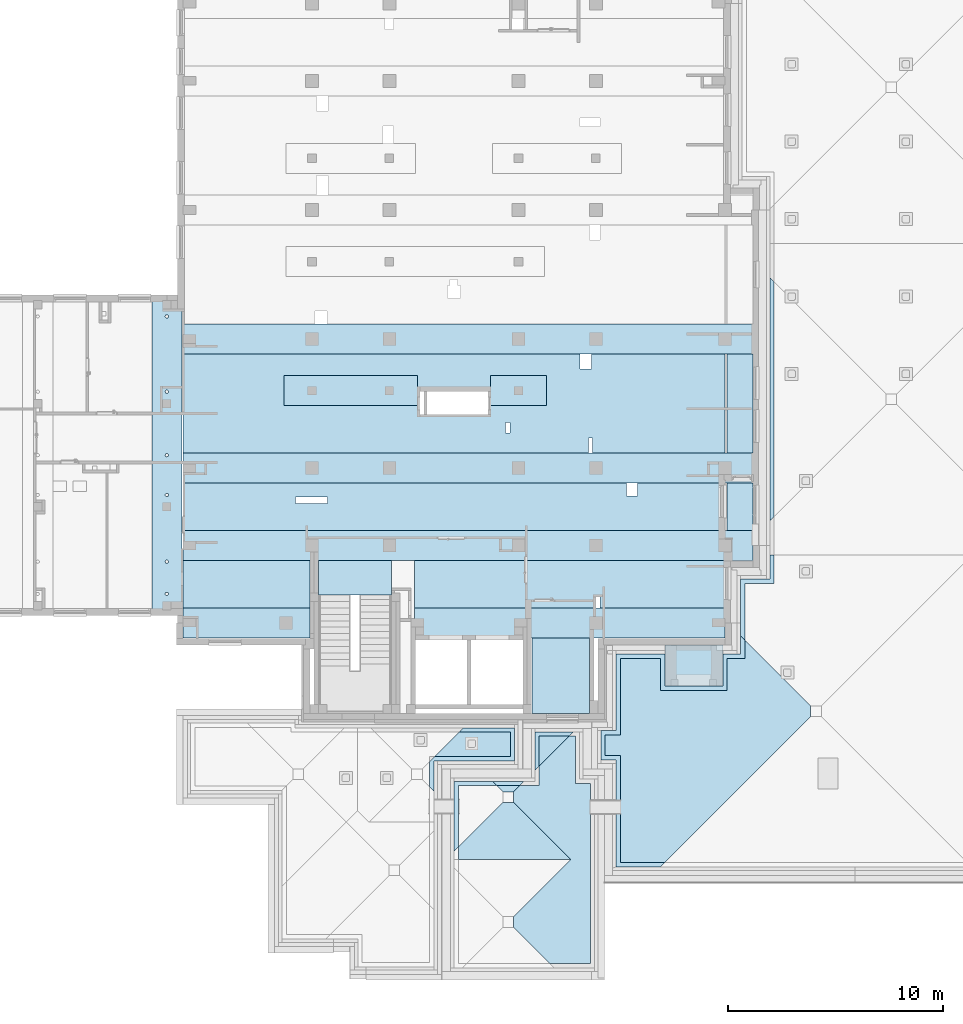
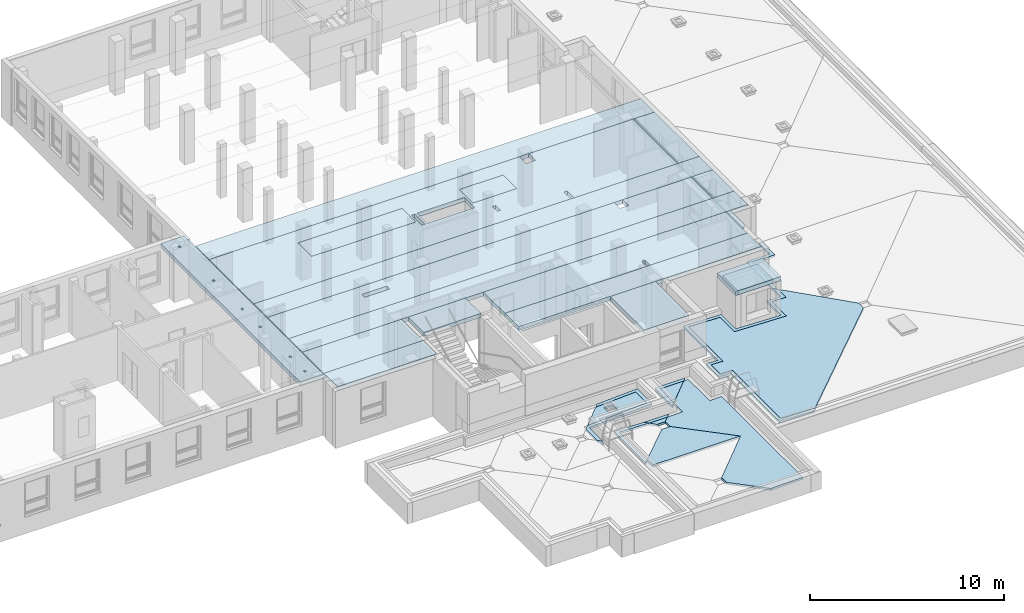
# One storey, part 5 of 50: 31 slabs, 14 openings, 6 elements without a shape of their own.
"""IFC4 building model written with IfcOpenShell, lengths in metres."""

from ifc_helpers import new_model, entity, si_unit, converted_unit, derived_unit, frame, frame_2d, origin, origin_with_axes, place, context, subcontext, project, spatial, polyline, rectangle, circle, outline, extrude, material, layer, layer_set, layer_usage, element, aggregate, save


model = new_model("IFC4")

# Units and contexts
model_context = context("Model", 3, precision=1e-05, world=origin())
body_context = subcontext(model_context, "Body", "Model", "MODEL_VIEW")
ifc_project = project(units=[si_unit("LENGTHUNIT", "METRE"), si_unit("AREAUNIT", "SQUARE_METRE"), si_unit("VOLUMEUNIT", "CUBIC_METRE"), si_unit("MASSUNIT", "GRAM", prefix="KILO"), converted_unit("PLANEANGLEUNIT", "DEGREE", entity("IfcPlaneAngleMeasure", 0.0174532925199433), si_unit("PLANEANGLEUNIT", "RADIAN"), dimensions=[0, 0, 0, 0, 0, 0, 0]), derived_unit("THERMALTRANSMITTANCEUNIT", [(si_unit("POWERUNIT", "WATT"), 1), (si_unit("THERMODYNAMICTEMPERATUREUNIT", "KELVIN"), -1), (si_unit("LENGTHUNIT", "METRE"), -2)]), derived_unit("VOLUMETRICFLOWRATEUNIT", [(si_unit("LENGTHUNIT", "METRE"), 3), (converted_unit("TIMEUNIT", "hour", entity("IfcTimeMeasure", 3600.0), si_unit("TIMEUNIT", "SECOND"), dimensions=[0, 0, 1, 0, 0, 0, 0]), -1), (si_unit("LENGTHUNIT", "METRE"), -1)])], contexts=[model_context])

# Site, building, storey
site_placement = place(None, origin())
site = spatial("IfcSite", under=ifc_project, at=site_placement, Name="3. ASŘ", CompositionType="ELEMENT")
building_placement = place(site_placement, origin())
building = spatial("IfcBuilding", under=site, at=building_placement, Name="Pavilon C", CompositionType="ELEMENT")
storey_placement = place(building_placement, frame((0.0, 0.0, 3.6)))
storey = spatial("IfcBuildingStorey", under=building, at=storey_placement, Name="Půdorys 2.NP", CompositionType="ELEMENT", Elevation=3.6)

# Slab, opening
ifc_material_1 = material(Name="PZD")
slab_1_placement = place(storey_placement, frame((35.52, 0.699999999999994, 3.25)))
slab_1 = element("IfcSlab", 1, at=slab_1_placement, inside=storey, material=ifc_material_1, PredefinedType="FLOOR", context=body_context, shape_type="SweptSolid", body=[
    extrude(rectangle(XDim=14.43, YDim=2.2, at=frame_2d((7.215, 1.1), x_axis=(1.0, -7.87850573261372e-18))), frame((0.0, 1.13686837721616e-16, 0.0), z_axis=(0.0, 0.0, 1.0), x_axis=(1.0, 0.0, 0.0)), (0.0, 0.0, 1.0), 0.25),
])
opening_1_placement = place(slab_1_placement, frame((8.43, -1.70530256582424e-15, 0.0)))
element("IfcOpeningElement", 2, at=opening_1_placement, cuts=slab_1, Name="Prostup deskou", ObjectType="Opening", context=body_context, shape_type="SweptSolid", body=[
    extrude(rectangle(XDim=0.5, YDim=0.2, at=frame_2d((7.27595761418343e-15, 0.0), x_axis=(0.0, -1.0))), frame((0.0999999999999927, 0.25, 0.0), z_axis=(0.0, 0.0, 1.0), x_axis=(1.0, 0.0, 0.0)), (0.0, 0.0, 1.0), 0.25),
])

# Slabs
ifc_material_2 = material(Name="DZH")
slab_2_placement = place(storey_placement, frame((31.05, 1.3001, 3.25)))
element("IfcSlab", 3, at=slab_2_placement, inside=storey, material=ifc_material_2, PredefinedType="FLOOR", context=body_context, shape_type="SweptSolid", body=[
    extrude(rectangle(XDim=1.5999, YDim=3.39999999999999, at=frame_2d((-1.69999999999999, 0.799949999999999), x_axis=(0.0, 1.0))), frame((3.39999999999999, 0.0, 0.0), z_axis=(0.0, 0.0, 1.0), x_axis=(1.0, 0.0, 0.0)), (0.0, 0.0, 1.0), 0.25),
])
ifc_material_3 = material(Name="PZD")
slab_3_placement = place(storey_placement, frame((24.75, 0.699999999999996, 3.25)))
element("IfcSlab", 4, at=slab_3_placement, inside=storey, material=ifc_material_3, PredefinedType="FLOOR", context=body_context, shape_type="SweptSolid", body=[
    extrude(rectangle(XDim=2.2, YDim=5.9, at=frame_2d((2.95, -1.1), x_axis=(0.0, -1.0))), frame((0.0, 2.2, 0.0), z_axis=(0.0, 0.0, 1.0), x_axis=(1.0, 0.0, 0.0)), (0.0, 0.0, 1.0), 0.25),
])
ifc_material_4 = material(Name="RZT")
slab_4_placement = place(storey_placement, frame((24.75, -0.700000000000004, 3.25)))
element("IfcSlab", 5, at=slab_4_placement, inside=storey, material=ifc_material_4, PredefinedType="FLOOR", context=body_context, shape_type="SweptSolid", body=[
    extrude(rectangle(XDim=1.4, YDim=5.9, at=frame_2d((-2.95, 0.700000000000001), x_axis=(0.0, 1.0))), frame((5.9, 0.0, 0.0), z_axis=(0.0, 0.0, 1.0), x_axis=(1.0, 0.0, 0.0)), (0.0, 0.0, 1.0), 0.25),
])
ifc_material_5 = material(Name="PZD")
slab_5_placement = place(storey_placement, frame((50.05, 7.89999999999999, 3.25)))
element("IfcSlab", 6, at=slab_5_placement, inside=storey, material=ifc_material_5, PredefinedType="FLOOR", context=body_context, shape_type="SweptSolid", body=[
    extrude(rectangle(XDim=1.2, YDim=4.6, at=frame_2d((0.6, 2.3), x_axis=(1.0, 0.0))), origin_with_axes(), (0.0, 0.0, 1.0), 0.25),
])
ifc_material_6 = material(Name="PZD")
slab_6_placement = place(storey_placement, frame((50.05, 4.29999999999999, 3.25)))
element("IfcSlab", 7, at=slab_6_placement, inside=storey, material=ifc_material_6, PredefinedType="FLOOR", context=body_context, shape_type="SweptSolid", body=[
    extrude(rectangle(XDim=1.2, YDim=2.2, at=frame_2d((0.6, 1.1), x_axis=(1.0, 0.0))), origin_with_axes(), (0.0, 0.0, 1.0), 0.25),
])
ifc_material_7 = material(Name="RZT")
slab_7_placement = place(storey_placement, frame((24.75, 2.89999999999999, 3.25)))
element("IfcSlab", 8, at=slab_7_placement, inside=storey, material=ifc_material_7, PredefinedType="FLOOR", context=body_context, shape_type="SweptSolid", body=[
    extrude(rectangle(XDim=1.4, YDim=26.5, at=frame_2d((-13.25, 0.700000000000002), x_axis=(0.0, 1.0))), frame((26.5, 0.0, 0.0), z_axis=(0.0, 0.0, 1.0), x_axis=(1.0, 0.0, 0.0)), (0.0, 0.0, 1.0), 0.25),
])
ifc_material_8 = material(Name="RZT")
slab_8_placement = place(storey_placement, frame((24.75, 6.49999999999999, 3.25)))
element("IfcSlab", 9, at=slab_8_placement, inside=storey, material=ifc_material_8, PredefinedType="FLOOR", context=body_context, shape_type="SweptSolid", body=[
    extrude(rectangle(XDim=1.4, YDim=26.5, at=frame_2d((-13.25, 0.700000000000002), x_axis=(0.0, 1.0))), frame((26.5, 0.0, 0.0), z_axis=(0.0, 0.0, 1.0), x_axis=(1.0, 0.0, 0.0)), (0.0, 0.0, 1.0), 0.25),
])
ifc_material_9 = material(Name="RZT")
slab_9_placement = place(storey_placement, frame((24.75, 12.5, 3.25)))
element("IfcSlab", 10, at=slab_9_placement, inside=storey, material=ifc_material_9, PredefinedType="FLOOR", context=body_context, shape_type="SweptSolid", body=[
    extrude(rectangle(XDim=1.4, YDim=26.5, at=frame_2d((-13.25, 0.700000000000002), x_axis=(0.0, 1.0))), frame((26.5, 0.0, 0.0), z_axis=(0.0, 0.0, 1.0), x_axis=(1.0, 0.0, 0.0)), (0.0, 0.0, 1.0), 0.25),
])
ifc_material_10 = material(Name="PZD")
slab_10_placement = place(storey_placement, frame((40.98, -4.2, 3.25)))
element("IfcSlab", 11, at=slab_10_placement, inside=storey, material=ifc_material_10, PredefinedType="FLOOR", context=body_context, shape_type="SweptSolid", body=[
    extrude(rectangle(XDim=3.5, YDim=2.67, at=frame_2d((1.335, -1.75), x_axis=(-2.07884503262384e-15, -1.0))), frame((7.27595761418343e-15, 3.5, 0.0), z_axis=(0.0, 0.0, 1.0), x_axis=(1.0, 0.0, 0.0)), (0.0, 0.0, 1.0), 0.25),
])
ifc_material_11 = material(Name="RZT")
slab_11_placement = place(storey_placement, frame((35.52, -0.700000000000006, 3.25)))
element("IfcSlab", 12, at=slab_11_placement, inside=storey, material=ifc_material_11, PredefinedType="FLOOR", context=body_context, shape_type="SweptSolid", body=[
    extrude(rectangle(XDim=1.4, YDim=14.43, at=frame_2d((-7.215, 0.700000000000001), x_axis=(0.0, 1.0))), frame((14.43, 0.0, 0.0), z_axis=(0.0, 0.0, 1.0), x_axis=(1.0, 0.0, 0.0)), (0.0, 0.0, 1.0), 0.25),
])

# Slab, openings
ifc_material_12 = material(Name="RZT")
slab_12_placement = place(storey_placement, frame((23.3, 0.600000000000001, 3.25)))
slab_12 = element("IfcSlab", 13, at=slab_12_placement, inside=storey, material=ifc_material_12, PredefinedType="FLOOR", context=body_context, shape_type="SweptSolid", body=[
    extrude(rectangle(XDim=1.4, YDim=14.4, at=frame_2d((0.700000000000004, 7.2), x_axis=(1.0, 0.0))), origin_with_axes(), (0.0, 0.0, 1.0), 0.25),
])
opening_2_placement = place(slab_12_placement, frame((0.62507717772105, 0.675077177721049, 0.0)))
element("IfcOpeningElement", 14, at=opening_2_placement, cuts=slab_12, Name="Prostup deskou", ObjectType="Opening", context=body_context, shape_type="SweptSolid", body=[
    extrude(circle(Radius=0.075, at=frame_2d((3.63797880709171e-15, -4.54747350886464e-16), x_axis=(1.0, 0.0))), frame((0.0749228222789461, 0.0749228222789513, 0.0), z_axis=(0.0, 0.0, 1.0), x_axis=(1.0, 0.0, 0.0)), (0.0, 0.0, 1.0), 0.25),
])
opening_3_placement = place(slab_12_placement, frame((0.62507717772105, 2.17507717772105, 0.0)))
element("IfcOpeningElement", 15, at=opening_3_placement, cuts=slab_12, Name="Prostup deskou", ObjectType="Opening", context=body_context, shape_type="SweptSolid", body=[
    extrude(circle(Radius=0.0749999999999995, at=frame_2d((3.63797880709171e-15, 0.0), x_axis=(1.0, 0.0))), frame((0.0749228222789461, 0.0749228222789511, 0.0), z_axis=(0.0, 0.0, 1.0), x_axis=(1.0, 0.0, 0.0)), (0.0, 0.0, 1.0), 0.25),
])
opening_4_placement = place(slab_12_placement, frame((0.625077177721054, 10.0750771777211, 0.0)))
element("IfcOpeningElement", 16, at=opening_4_placement, cuts=slab_12, Name="Prostup deskou", ObjectType="Opening", context=body_context, shape_type="SweptSolid", body=[
    extrude(circle(Radius=0.0750000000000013, at=frame_2d((7.27595761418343e-15, -1.81898940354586e-15), x_axis=(1.0, 0.0))), frame((0.0749228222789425, 0.0749228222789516, 0.0), z_axis=(0.0, 0.0, 1.0), x_axis=(1.0, 0.0, 0.0)), (0.0, 0.0, 1.0), 0.25),
])
opening_5_placement = place(slab_12_placement, frame((0.625077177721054, 13.575077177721, 0.0)))
element("IfcOpeningElement", 17, at=opening_5_placement, cuts=slab_12, Name="Prostup deskou", ObjectType="Opening", context=body_context, shape_type="SweptSolid", body=[
    extrude(circle(Radius=0.0750000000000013, at=frame_2d((-3.63797880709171e-15, 5.45696821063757e-15), x_axis=(1.0, 0.0))), frame((0.0749228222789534, 0.0749228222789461, 0.0), z_axis=(0.0, 0.0, 1.0), x_axis=(1.0, 0.0, 0.0)), (0.0, 0.0, 1.0), 0.25),
])
opening_6_placement = place(slab_12_placement, frame((0.62507717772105, 5.27507717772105, 0.0)))
element("IfcOpeningElement", 18, at=opening_6_placement, cuts=slab_12, Name="Prostup deskou", ObjectType="Opening", context=body_context, shape_type="SweptSolid", body=[
    extrude(circle(Radius=0.0750000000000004, at=frame_2d((3.63797880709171e-15, 5.45696821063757e-15), x_axis=(1.0, 0.0))), frame((0.0749228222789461, 0.0749228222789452, 0.0), z_axis=(0.0, 0.0, 1.0), x_axis=(1.0, 0.0, 0.0)), (0.0, 0.0, 1.0), 0.25),
])
opening_7_placement = place(slab_12_placement, frame((0.62507717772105, 7.12507717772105, 0.0)))
element("IfcOpeningElement", 19, at=opening_7_placement, cuts=slab_12, Name="Prostup deskou", ObjectType="Opening", context=body_context, shape_type="SweptSolid", body=[
    extrude(circle(Radius=0.0750000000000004, at=frame_2d((3.63797880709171e-15, 9.09494701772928e-16), x_axis=(1.0, 0.0))), frame((0.0749228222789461, 0.0749228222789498, 0.0), z_axis=(0.0, 0.0, 1.0), x_axis=(1.0, 0.0, 0.0)), (0.0, 0.0, 1.0), 0.25),
])

# Slabs
ifc_material_13 = material(Name="RZT")
slab_13_placement = place(storey_placement, frame((29.45, 10.1, 3.25)))
element("IfcSlab", 20, at=slab_13_placement, inside=storey, material=ifc_material_13, PredefinedType="FLOOR", context=body_context, shape_type="SweptSolid", body=[
    extrude(rectangle(XDim=1.4, YDim=6.2, at=frame_2d((-3.1, 0.7), x_axis=(0.0, 1.0))), frame((6.2, 0.0, 0.0), z_axis=(0.0, 0.0, 1.0), x_axis=(1.0, 0.0, 0.0)), (0.0, 0.0, 1.0), 0.25),
])
ifc_material_14 = material(Name="RZT")
slab_14_placement = place(storey_placement, frame((39.05, 10.1, 3.25)))
element("IfcSlab", 21, at=slab_14_placement, inside=storey, material=ifc_material_14, PredefinedType="FLOOR", context=body_context, shape_type="SweptSolid", body=[
    extrude(rectangle(XDim=1.4, YDim=2.6, at=frame_2d((-1.3, 0.7), x_axis=(0.0, 1.0))), frame((2.6, 0.0, 0.0), z_axis=(0.0, 0.0, 1.0), x_axis=(1.0, 0.0, 0.0)), (0.0, 0.0, 1.0), 0.25),
])

# Slab, openings
ifc_material_15 = material(Name="PZD")
slab_15_placement = place(storey_placement, frame((24.75, 7.9, 3.25)))
slab_15 = element("IfcSlab", 22, at=slab_15_placement, inside=storey, material=ifc_material_15, PredefinedType="FLOOR", context=body_context, shape_type="SweptSolid", body=[
    extrude(outline(polyline([(25.2, 0.0), (25.2, 4.6), (0.0, 4.6), (0.0, 0.0), (25.2, 0.0)]), holes=[polyline([(10.9, 2.19999999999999), (4.7, 2.19999999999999), (4.7, 3.59999999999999), (10.9, 3.59999999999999), (10.9, 2.19999999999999)]), polyline([(14.3, 2.2), (14.3, 3.59999999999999), (16.9, 3.59999999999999), (16.9, 2.19999999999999), (14.3, 2.2)])]), origin_with_axes(), (0.0, 0.0, 1.0), 0.25),
])
opening_8_placement = place(slab_15_placement, frame((15.0, 0.924999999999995, 0.0)))
element("IfcOpeningElement", 23, at=opening_8_placement, cuts=slab_15, Name="Prostup deskou", ObjectType="Opening", context=body_context, shape_type="SweptSolid", body=[
    extrude(rectangle(XDim=0.5, YDim=0.2, at=frame_2d((7.27595761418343e-15, 0.0), x_axis=(0.0, -1.0))), frame((0.0999999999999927, 0.25, 0.0), z_axis=(0.0, 0.0, 1.0), x_axis=(1.0, 0.0, 0.0)), (0.0, 0.0, 1.0), 0.25),
])
opening_9_placement = place(slab_15_placement, frame((18.45, 3.9, 9.09494701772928e-16)))
element("IfcOpeningElement", 24, at=opening_9_placement, cuts=slab_15, Name="Prostup deskou", ObjectType="Opening", context=body_context, shape_type="SweptSolid", body=[
    extrude(rectangle(XDim=0.7, YDim=0.55, at=frame_2d((7.27595761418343e-15, 0.0), x_axis=(0.0, -1.0))), frame((0.274999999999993, 0.35, -9.09494701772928e-16), z_axis=(0.0, 0.0, 1.0), x_axis=(1.0, 0.0, 0.0)), (0.0, 0.0, 1.0), 0.25),
])
opening_10_placement = place(slab_15_placement, frame((18.85, -4.54747350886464e-15, 0.0)))
element("IfcOpeningElement", 25, at=opening_10_placement, cuts=slab_15, Name="Prostup deskou", ObjectType="Opening", context=body_context, shape_type="SweptSolid", body=[
    extrude(rectangle(XDim=0.7, YDim=0.2, at=frame_2d((7.27595761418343e-15, 0.0), x_axis=(0.0, -1.0))), frame((0.0999999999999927, 0.35, 0.0), z_axis=(0.0, 0.0, 1.0), x_axis=(1.0, 0.0, 0.0)), (0.0, 0.0, 1.0), 0.25),
])
opening_11_placement = place(slab_15_placement, frame((11.3375, 1.79999999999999, 0.0)))
element("IfcOpeningElement", 26, at=opening_11_placement, cuts=slab_15, Name="Prostup deskou", ObjectType="Opening", context=body_context, shape_type="SweptSolid", body=[
    extrude(rectangle(XDim=1.05, YDim=2.85, at=frame_2d((7.27595761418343e-15, 1.81898940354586e-15), x_axis=(0.0, -1.0))), frame((1.42499999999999, 0.524999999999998, 0.0), z_axis=(0.0, 0.0, 1.0), x_axis=(1.0, 0.0, 0.0)), (0.0, 0.0, 1.0), 0.25),
])
opening_12_placement = place(slab_15_placement, frame((11.0125, 1.79999999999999, 9.09494701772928e-16)))
element("IfcOpeningElement", 27, at=opening_12_placement, cuts=slab_15, Name="Prostup deskou", ObjectType="Opening", context=body_context, shape_type="SweptSolid", body=[
    extrude(rectangle(XDim=1.05, YDim=0.2, at=frame_2d((7.27595761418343e-15, 1.81898940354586e-15), x_axis=(0.0, -1.0))), frame((0.0999999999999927, 0.524999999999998, -9.09494701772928e-16), z_axis=(0.0, 0.0, 1.0), x_axis=(1.0, 0.0, 0.0)), (0.0, 0.0, 1.0), 0.25),
])

ifc_material_16 = material(Name="PZD")
slab_16_placement = place(storey_placement, frame((24.75, 4.3, 3.25)))
slab_16 = element("IfcSlab", 28, at=slab_16_placement, inside=storey, material=ifc_material_16, PredefinedType="FLOOR", context=body_context, shape_type="SweptSolid", body=[
    extrude(rectangle(XDim=2.2, YDim=25.2, at=frame_2d((-12.6, 1.1), x_axis=(0.0, 1.0))), frame((25.2, 0.0, 0.0), z_axis=(0.0, 0.0, 1.0), x_axis=(1.0, 0.0, 0.0)), (0.0, 0.0, 1.0), 0.25),
])
opening_13_placement = place(slab_16_placement, frame((20.63, 1.6, 0.0)))
element("IfcOpeningElement", 29, at=opening_13_placement, cuts=slab_16, Name="Prostup deskou", ObjectType="Opening", context=body_context, shape_type="SweptSolid", body=[
    extrude(rectangle(XDim=0.6, YDim=0.5, at=frame_2d((7.27595761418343e-15, 0.0), x_axis=(0.0, -1.0))), frame((0.249999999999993, 0.3, 0.0), z_axis=(0.0, 0.0, 1.0), x_axis=(1.0, 0.0, 0.0)), (0.0, 0.0, 1.0), 0.25),
])
opening_14_placement = place(slab_16_placement, frame((5.225, 1.25, 9.09494701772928e-16)))
element("IfcOpeningElement", 30, at=opening_14_placement, cuts=slab_16, Name="Prostup deskou", ObjectType="Opening", context=body_context, shape_type="SweptSolid", body=[
    extrude(rectangle(XDim=0.3, YDim=1.5, at=frame_2d((3.63797880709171e-15, -9.09494701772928e-16), x_axis=(0.0, -1.0))), frame((0.749999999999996, 0.150000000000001, -9.09494701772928e-16), z_axis=(0.0, 0.0, 1.0), x_axis=(1.0, 0.0, 0.0)), (0.0, 0.0, 1.0), 0.25),
])

# Roof, slab
roof_1_placement = place(storey_placement, frame((0.0, 0.0, -3.6)))
roof_1 = element("IfcRoof", 31, at=roof_1_placement, inside=storey, PredefinedType="NOTDEFINED")
ifc_material_17 = material(Name="ASFALTOVÁ HYDROIZOLACE")
ifc_layer_1 = layer(ifc_material_17, 0.01)
ifc_material_18 = material(Name="II.S2 - KAČÍREK")
ifc_layer_2 = layer(ifc_material_18, 0.12)
ifc_layer_set_1 = layer_set([ifc_layer_1, ifc_layer_2])
ifc_layer_usage_1 = layer_usage(ifc_layer_set_1, "AXIS3", "POSITIVE", 0.0)
slab_17_placement = place(roof_1_placement, frame((36.22, -7.82000177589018, 3.77781864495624)))
slab_17 = element("IfcSlab", 32, at=slab_17_placement, material=ifc_layer_usage_1, PredefinedType="ROOF", context=body_context, shape_type="SweptSolid", body=[
    extrude(outline(polyline([(-1.52181947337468, 1.72418159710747), (-1.72181947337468, 1.52390712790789), (-0.321817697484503, 1.52390712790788), (-0.321817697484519, -2.23123916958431), (1.21818230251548, -2.23123916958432), (1.21818230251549, 0.162038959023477), (1.01818230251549, 0.36231342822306), (1.01818230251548, -2.03096470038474), (-0.121817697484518, -2.03096470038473), (-0.121817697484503, 1.50387790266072), (-0.341819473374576, 1.72418159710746), (-1.52181947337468, 1.72418159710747)])), frame((1.72181866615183, 1.72181947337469, 0.0902366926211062), z_axis=(-0.0523359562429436, -2.37366272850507e-16, 0.998629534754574), x_axis=(-4.53543395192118e-15, 1.0, 0.0)), (0.0, -0.0523359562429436, 0.998629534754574), 0.130178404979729),
])
aggregate(roof_1, [slab_17])

roof_2_placement = place(storey_placement, frame((0.0, 0.0, -3.6)))
roof_2 = element("IfcRoof", 33, at=roof_2_placement, inside=storey, PredefinedType="NOTDEFINED")
ifc_material_19 = material(Name="ASFALTOVÁ HYDROIZOLACE")
ifc_layer_3 = layer(ifc_material_19, 0.01)
ifc_material_20 = material(Name="II.S1 - SOUVRSTVÍ ZELENÉ STŘECHY")
ifc_layer_4 = layer(ifc_material_20, 0.12)
ifc_layer_set_2 = layer_set([ifc_layer_3, ifc_layer_4])
ifc_layer_usage_2 = layer_usage(ifc_layer_set_2, "AXIS3", "POSITIVE", 0.0)
slab_18_placement = place(roof_2_placement, frame((36.4400017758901, -6.22, 3.78934844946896)))
slab_18 = element("IfcSlab", 34, at=slab_18_placement, material=ifc_layer_usage_2, PredefinedType="ROOF", context=body_context, shape_type="SweptSolid", body=[
    extrude(outline(polyline([(0.551249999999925, -1.6397467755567), (0.551249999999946, 0.753531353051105), (-0.588750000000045, 1.89509582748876), (-0.588750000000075, -1.63974677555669), (0.551249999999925, -1.6397467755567)]), holes=[polyline([(-0.231069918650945, -0.0924461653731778), (-0.231069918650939, 0.407879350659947), (0.268569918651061, 0.40787935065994), (0.268569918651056, -0.0924461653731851), (-0.231069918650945, -0.0924461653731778)])]), frame((1.89249866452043, 0.588750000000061, 0.0991816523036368), z_axis=(-0.0523359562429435, -4.54879911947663e-16, 0.998629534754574), x_axis=(-8.69153722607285e-15, 1.0, 0.0)), (0.0, -0.0523359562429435, 0.998629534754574), 0.13017840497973),
])
aggregate(roof_2, [slab_18])

# Roof, slabs
roof_3_placement = place(storey_placement, frame((0.0, 0.0, -3.6)))
roof_3 = element("IfcRoof", 35, at=roof_3_placement, inside=storey, PredefinedType="NOTDEFINED")
ifc_material_21 = material(Name="ASFALTOVÁ HYDROIZOLACE")
ifc_layer_5 = layer(ifc_material_21, 0.01)
ifc_material_22 = material(Name="SOUVRSTVÍ ZELENÉ STŘECHY")
ifc_layer_6 = layer(ifc_material_22, 0.12)
ifc_layer_set_3 = layer_set([ifc_layer_5, ifc_layer_6])
ifc_layer_usage_3 = layer_usage(ifc_layer_set_3, "AXIS3", "POSITIVE", 0.0)
slab_19_placement = place(roof_3_placement, frame((39.3350000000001, -7.84999999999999, 3.73)))
slab_19 = element("IfcSlab", 36, at=slab_19_placement, material=ifc_layer_usage_3, PredefinedType="ROOF", context=body_context, shape_type="SweptSolid", body=[
    extrude(outline(polyline([(0.539999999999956, -0.14506523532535), (0.249999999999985, 0.14506523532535), (-0.249999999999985, 0.145065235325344), (-0.539999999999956, -0.145065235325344), (0.539999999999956, -0.14506523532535)])), frame((0.539999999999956, 0.144999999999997, 0.00435000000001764), z_axis=(1.2092704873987e-16, -0.0299865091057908, 0.999550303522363), x_axis=(-1.0, -4.03271512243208e-15, 0.0)), (0.0, -0.0299865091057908, 0.999550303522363), 0.130058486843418),
])
ifc_material_23 = material(Name="ASFALTOVÁ HYDROIZOLACE")
ifc_layer_7 = layer(ifc_material_23, 0.01)
ifc_material_24 = material(Name="SOUVRSTVÍ ZELENÉ STŘECHY")
ifc_layer_8 = layer(ifc_material_24, 0.12)
ifc_layer_set_4 = layer_set([ifc_layer_7, ifc_layer_8])
ifc_layer_usage_4 = layer_usage(ifc_layer_set_4, "AXIS3", "POSITIVE", 0.0)
slab_20_placement = place(roof_3_placement, frame((41.31, -6.66499999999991, 3.76555000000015)))
slab_20 = element("IfcSlab", 37, at=slab_20_placement, material=ifc_layer_usage_4, PredefinedType="ROOF", context=body_context, shape_type="SweptSolid", body=[
    extrude(outline(polyline([(0.468333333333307, -0.468544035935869), (0.468333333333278, 0.937088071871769), (-0.936666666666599, -0.468544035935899), (0.468333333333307, -0.468544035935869)])), frame((0.468333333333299, 0.936666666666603, 0.0281000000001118), z_axis=(-6.2552194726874e-16, -0.0299865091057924, 0.999550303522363), x_axis=(-1.0, 2.08601122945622e-14, 0.0)), (0.0, -0.0299865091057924, 0.999550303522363), 0.130058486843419),
])
ifc_material_25 = material(Name="ASFALTOVÁ HYDROIZOLACE")
ifc_layer_9 = layer(ifc_material_25, 0.01)
ifc_material_26 = material(Name="SOUVRSTVÍ ZELENÉ STŘECHY")
ifc_layer_10 = layer(ifc_material_26, 0.12)
ifc_layer_set_5 = layer_set([ifc_layer_9, ifc_layer_10])
ifc_layer_usage_5 = layer_usage(ifc_layer_set_5, "AXIS3", "POSITIVE", 0.0)
slab_21_placement = place(roof_3_placement, frame((37.56, -11.0, 3.73)))
slab_21 = element("IfcSlab", 38, at=slab_21_placement, material=ifc_layer_usage_5, PredefinedType="ROOF", context=body_context, shape_type="SweptSolid", body=[
    extrude(outline(polyline([(-1.96899999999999, -1.17752953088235), (3.24600000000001, -1.17752953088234), (0.596000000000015, 1.47366270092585), (0.0960000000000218, 1.47366270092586), (-1.969, -0.592266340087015), (-1.96899999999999, -1.17752953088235)])), frame((1.969, 1.177, 0.0441900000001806), z_axis=(1.03846111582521e-17, 0.0299865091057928, 0.999550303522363), x_axis=(1.0, -3.46309439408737e-16, 0.0)), (0.0, -0.0299865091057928, 0.999550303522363), 0.13005848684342),
])
ifc_material_27 = material(Name="ASFALTOVÁ HYDROIZOLACE")
ifc_layer_11 = layer(ifc_material_27, 0.01)
ifc_material_28 = material(Name="SOUVRSTVÍ ZELENÉ STŘECHY")
ifc_layer_12 = layer(ifc_material_28, 0.12)
ifc_layer_set_6 = layer_set([ifc_layer_11, ifc_layer_12])
ifc_layer_usage_6 = layer_usage(ifc_layer_set_6, "AXIS3", "POSITIVE", 0.0)
slab_22_placement = place(roof_3_placement, frame((40.125, -15.84, 3.73)))
slab_22 = element("IfcSlab", 39, at=slab_22_placement, material=ifc_layer_usage_6, PredefinedType="ROOF", context=body_context, shape_type="SweptSolid", body=[
    extrude(outline(polyline([(2.00464285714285, 1.31416240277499), (1.71464285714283, 1.6042928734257), (1.2146428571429, 1.60429287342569), (-1.43535714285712, -1.04689935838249), (-4.08535714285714, 1.60429287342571), (-4.5853571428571, 1.60429287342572), (-6.27535714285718, -0.0864674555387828), (-6.27535714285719, -1.96231101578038), (2.10464285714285, -1.96231101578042), (2.10464285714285, -1.26199608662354), (4.30464285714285, -1.26199608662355), (4.30464285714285, -0.986872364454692), (2.89964285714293, 0.418759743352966), (2.00464285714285, 0.418759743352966), (2.00464285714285, 1.31416240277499)])), frame((1.60357142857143, 6.27535714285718, 0.0481071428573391), z_axis=(-0.0299865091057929, -1.19850219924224e-16, 0.999550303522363), x_axis=(-3.9968046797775e-15, 1.0, 0.0)), (0.0, -0.0299865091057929, 0.999550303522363), 0.130058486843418),
])
aggregate(roof_3, [slab_19, slab_20, slab_21, slab_22])

roof_4_placement = place(storey_placement, frame((0.0, 0.0, -3.6)))
roof_4 = element("IfcRoof", 40, at=roof_4_placement, inside=storey, PredefinedType="NOTDEFINED")
ifc_material_29 = material(Name="ASFALTOVÁ HYDROIZOLACE")
ifc_layer_13 = layer(ifc_material_29, 0.01)
ifc_material_30 = material(Name="KAČÍREK")
ifc_layer_14 = layer(ifc_material_30, 0.12)
ifc_layer_set_7 = layer_set([ifc_layer_13, ifc_layer_14])
ifc_layer_usage_7 = layer_usage(ifc_layer_set_7, "AXIS3", "POSITIVE", 0.0)
slab_23_placement = place(roof_4_placement, frame((37.36, -10.6149999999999, 3.73870000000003)))
slab_23 = element("IfcSlab", 41, at=slab_23_placement, material=ifc_layer_usage_7, PredefinedType="ROOF", context=body_context, shape_type="SweptSolid", body=[
    extrude(outline(polyline([(-1.1183333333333, 1.08382072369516), (-1.1183333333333, -0.691977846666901), (2.13666666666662, -0.691977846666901), (1.9366666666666, -0.491887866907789), (-0.918333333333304, -0.491887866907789), (-0.918333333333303, 1.28391070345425), (-1.1183333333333, 1.08382072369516)])), frame((0.69166666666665, 2.13666666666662, 0.0385000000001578), z_axis=(0.0299865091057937, 1.76146364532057e-17, 0.999550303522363), x_axis=(5.87418708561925e-16, -1.0, 0.0)), (0.0, -0.0299865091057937, 0.999550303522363), 0.13005848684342),
])
ifc_material_31 = material(Name="ASFALTOVÁ HYDROIZOLACE")
ifc_layer_15 = layer(ifc_material_31, 0.01)
ifc_material_32 = material(Name="KAČÍREK")
ifc_layer_16 = layer(ifc_material_32, 0.12)
ifc_layer_set_8 = layer_set([ifc_layer_15, ifc_layer_16])
ifc_layer_usage_8 = layer_usage(ifc_layer_set_8, "AXIS3", "POSITIVE", 0.0)
slab_24_placement = place(roof_4_placement, frame((39.135, -7.56, 3.73870000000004)))
slab_24 = element("IfcSlab", 42, at=slab_24_placement, material=ifc_layer_usage_8, PredefinedType="ROOF", context=body_context, shape_type="SweptSolid", body=[
    extrude(outline(polyline([(-0.739999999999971, -0.100044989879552), (0.739999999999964, -0.100044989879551), (0.539999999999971, 0.100044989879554), (-0.539999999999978, 0.100044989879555), (-0.739999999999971, -0.100044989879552)])), frame((0.739999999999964, 0.100000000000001, 0.00300000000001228), z_axis=(0.0, -0.0299865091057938, 0.999550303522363), x_axis=(-1.0, 0.0, 0.0)), (0.0, -0.0299865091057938, 0.999550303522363), 0.130058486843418),
])
ifc_material_33 = material(Name="ASFALTOVÁ HYDROIZOLACE")
ifc_layer_17 = layer(ifc_material_33, 0.01)
ifc_material_34 = material(Name="KAČÍREK")
ifc_layer_18 = layer(ifc_material_34, 0.12)
ifc_layer_set_9 = layer_set([ifc_layer_17, ifc_layer_18])
ifc_layer_usage_9 = layer_usage(ifc_layer_set_9, "AXIS3", "POSITIVE", 0.0)
slab_25_placement = place(roof_4_placement, frame((41.11, -6.86499999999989, 3.75955000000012)))
slab_25 = element("IfcSlab", 43, at=slab_25_placement, material=ifc_layer_usage_9, PredefinedType="ROOF", context=body_context, shape_type="SweptSolid", body=[
    extrude(outline(polyline([(-1.16999999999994, -0.635285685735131), (0.634999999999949, -0.635285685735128), (0.634999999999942, 1.17052638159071), (0.434999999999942, 0.970436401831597), (0.434999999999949, -0.43519570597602), (-0.969999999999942, -0.435195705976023), (-1.16999999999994, -0.635285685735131)])), frame((0.634999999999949, 1.16999999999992, 0.0351000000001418), z_axis=(-5.21626536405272e-17, -0.0299865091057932, 0.999550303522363), x_axis=(-1.0, 1.73953738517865e-15, 0.0)), (0.0, -0.0299865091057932, 0.999550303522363), 0.13005848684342),
])
aggregate(roof_4, [slab_23, slab_24, slab_25])

roof_5_placement = place(storey_placement, frame((0.0, 0.0, -3.6)))
roof_5 = element("IfcRoof", 44, at=roof_5_placement, inside=storey, PredefinedType="NOTDEFINED")
ifc_material_35 = material(Name="ASFALTOVÁ HYDROIZOLACE")
ifc_layer_19 = layer(ifc_material_35, 0.01)
ifc_material_36 = material(Name="KAČÍREK")
ifc_layer_20 = layer(ifc_material_36, 0.12)
ifc_layer_set_10 = layer_set([ifc_layer_19, ifc_layer_20])
ifc_layer_usage_10 = layer_usage(ifc_layer_set_10, "AXIS3", "POSITIVE", 0.0)
slab_26_placement = place(roof_5_placement, frame((50.68, -0.799999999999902, 4.02150000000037)))
slab_26 = element("IfcSlab", 45, at=slab_26_placement, material=ifc_layer_usage_10, PredefinedType="ROOF", context=body_context, shape_type="SweptSolid", body=[
    extrude(outline(polyline([(0.579999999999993, -0.257615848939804), (-0.780000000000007, -0.257615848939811), (-0.78, -1.56820521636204), (-0.58, -1.56820521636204), (-0.580000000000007, -0.457705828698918), (0.779999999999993, -0.457705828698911), (0.779999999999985, 2.18348190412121), (0.579999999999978, 2.38357188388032), (0.579999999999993, -0.257615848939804)])), frame((0.779999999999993, 2.38249999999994, 0.0714750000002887), z_axis=(-1.49027414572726e-16, -0.0299865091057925, 0.999550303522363), x_axis=(-1.0, 4.96981539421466e-15, 0.0)), (0.0, -0.0299865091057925, 0.999550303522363), 0.13005848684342),
])
ifc_material_37 = material(Name="ASFALTOVÁ HYDROIZOLACE")
ifc_layer_21 = layer(ifc_material_37, 0.01)
ifc_material_38 = material(Name="KAČÍREK")
ifc_layer_22 = layer(ifc_material_38, 0.12)
ifc_layer_set_11 = layer_set([ifc_layer_21, ifc_layer_22])
ifc_layer_usage_11 = layer_usage(ifc_layer_set_11, "AXIS3", "POSITIVE", 0.0)
slab_27_placement = place(roof_5_placement, frame((44.18, -11.34, 4.02150000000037)))
slab_27 = element("IfcSlab", 46, at=slab_27_placement, material=ifc_layer_usage_11, PredefinedType="ROOF", context=body_context, shape_type="SweptSolid", body=[
    extrude(outline(polyline([(-3.67846153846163, 3.87251068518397), (-3.87846153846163, 3.67242070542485), (-3.02846153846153, 3.67242070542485), (-3.02846153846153, 2.84204728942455), (-1.53846153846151, 2.84204728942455), (-1.53846153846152, 0.140832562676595), (-3.02846153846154, 0.140832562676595), (-3.02846153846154, -2.12018420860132), (0.531538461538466, -2.12018420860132), (0.531538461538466, -2.83050363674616), (1.89153846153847, -2.83050363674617), (1.89153846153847, -2.12018420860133), (6.86153846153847, -2.12018420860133), (6.86153846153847, -0.0692619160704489), (6.66153846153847, 0.130828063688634), (6.66153846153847, -1.92009422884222), (1.69153846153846, -1.92009422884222), (1.69153846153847, -2.63041365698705), (0.731538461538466, -2.63041365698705), (0.731538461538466, -1.92009422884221), (-2.82846153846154, -1.92009422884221), (-2.82846153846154, -0.0592574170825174), (-1.33846153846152, -0.0592574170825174), (-1.33846153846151, 3.04213726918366), (-2.82846153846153, 3.04213726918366), (-2.82846153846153, 3.87251068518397), (-3.67846153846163, 3.87251068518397)])), frame((2.82923076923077, 6.86153846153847, 0.116123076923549), z_axis=(0.029986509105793, 1.89578680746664e-17, 0.999550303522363), x_axis=(6.32213239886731e-16, -1.0, 0.0)), (0.0, -0.029986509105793, 0.999550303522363), 0.130058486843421),
])
ifc_material_39 = material(Name="ASFALTOVÁ HYDROIZOLACE")
ifc_layer_23 = layer(ifc_material_39, 0.01)
ifc_material_40 = material(Name="KAČÍREK")
ifc_layer_24 = layer(ifc_material_40, 0.12)
ifc_layer_set_12 = layer_set([ifc_layer_23, ifc_layer_24])
ifc_layer_usage_12 = layer_usage(ifc_layer_set_12, "AXIS3", "POSITIVE", 0.0)
slab_28_placement = place(roof_5_placement, frame((52.04, 4.75999999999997, 4.08570000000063)))
slab_28 = element("IfcSlab", 47, at=slab_28_placement, material=ifc_layer_usage_12, PredefinedType="ROOF", context=body_context, shape_type="SweptSolid", body=[
    extrude(outline(polyline([(-5.44000000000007, 0.100044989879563), (-5.64000000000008, -0.100044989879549), (5.64000000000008, -0.100044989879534), (5.44000000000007, 0.100044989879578), (-5.44000000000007, 0.100044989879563)])), frame((0.0999999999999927, 5.64000000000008, 0.00300000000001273), z_axis=(0.0299865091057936, -4.10237231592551e-17, 0.999550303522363), x_axis=(-1.36807265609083e-15, -1.0, 0.0)), (0.0, -0.0299865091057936, 0.999550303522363), 0.13005848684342),
])
aggregate(roof_5, [slab_26, slab_27, slab_28])

# Roof, slab
roof_6_placement = place(storey_placement, frame((0.0, 0.0, -3.6)))
roof_6 = element("IfcRoof", 48, at=roof_6_placement, inside=storey, PredefinedType="NOTDEFINED")
ifc_material_41 = material(Name="ASFALTOVÁ HYDROIZOLACE")
ifc_layer_25 = layer(ifc_material_41, 0.01)
ifc_material_42 = material(Name="SOUVRSTVÍ ZELENÉ STŘECHY")
ifc_layer_26 = layer(ifc_material_42, 0.12)
ifc_layer_set_13 = layer_set([ifc_layer_25, ifc_layer_26])
ifc_layer_usage_13 = layer_usage(ifc_layer_set_13, "AXIS3", "POSITIVE", 0.0)
slab_29_placement = place(roof_6_placement, frame((44.38, -11.14, 3.93)))
slab_29 = element("IfcSlab", 49, at=slab_29_placement, material=ifc_layer_usage_13, PredefinedType="ROOF", context=body_context, shape_type="SweptSolid", body=[
    extrude(outline(polyline([(6.99778778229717, -1.62296206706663), (0.20778778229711, 5.17009274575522), (-0.292212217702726, 5.17009274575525), (-1.58239229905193, 3.87933221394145), (-1.58239229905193, 3.83967454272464), (-1.62203213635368, 3.83967454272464), (-3.34221221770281, 2.11872055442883), (-2.49221221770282, 2.11872055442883), (-2.49221221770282, 1.28834713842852), (-1.0022122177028, 1.28834713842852), (-1.00221221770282, -1.81304754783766), (-2.49221221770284, -1.81304754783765), (-2.49221221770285, -3.67388435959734), (1.06778778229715, -3.67388435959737), (1.06778778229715, -4.3842037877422), (2.02778778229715, -4.38420378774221), (2.02778778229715, -3.67388435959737), (6.99778778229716, -3.6738843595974), (6.99778778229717, -1.62296206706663)])), frame((4.3822322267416, 6.99778778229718, 0.155033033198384), z_axis=(0.0299865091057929, 1.59241990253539e-16, 0.999550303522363), x_axis=(5.31045443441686e-15, -1.0, 0.0)), (0.0, -0.0299865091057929, 0.999550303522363), 0.130058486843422),
])
aggregate(roof_6, [slab_29])

# Slabs
ifc_material_43 = material(Name="PIR")
slab_30_placement = place(storey_placement, frame((47.15, -2.94000000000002, 2.75)))
element("IfcSlab", 50, at=slab_30_placement, inside=storey, material=ifc_material_43, PredefinedType="FLOOR", context=body_context, shape_type="SweptSolid", body=[
    extrude(rectangle(XDim=2.7, YDim=1.92, at=frame_2d((1.35, 0.96), x_axis=(1.0, 0.0))), origin_with_axes(), (0.0, 0.0, 1.0), 0.26),
])
ifc_material_44 = material(Name="ZELEZOBETONOVÁ KCE")
slab_31_placement = place(storey_placement, frame((47.45, -2.64000000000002, 2.5)))
element("IfcSlab", 51, at=slab_31_placement, inside=storey, material=ifc_material_44, PredefinedType="FLOOR", context=body_context, shape_type="SweptSolid", body=[
    extrude(rectangle(XDim=1.6, YDim=2.1, at=frame_2d((1.05, -0.8), x_axis=(0.0, -1.0))), frame((0.0, 1.6, 0.0), z_axis=(0.0, 0.0, 1.0), x_axis=(1.0, 0.0, 0.0)), (0.0, 0.0, 1.0), 0.25),
])

save(model, "model.ifc")
